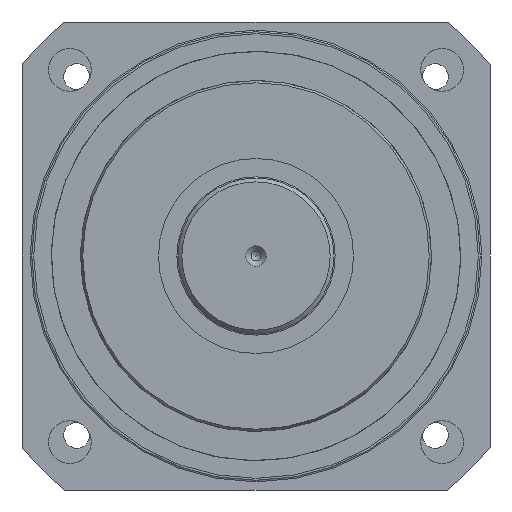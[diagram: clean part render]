
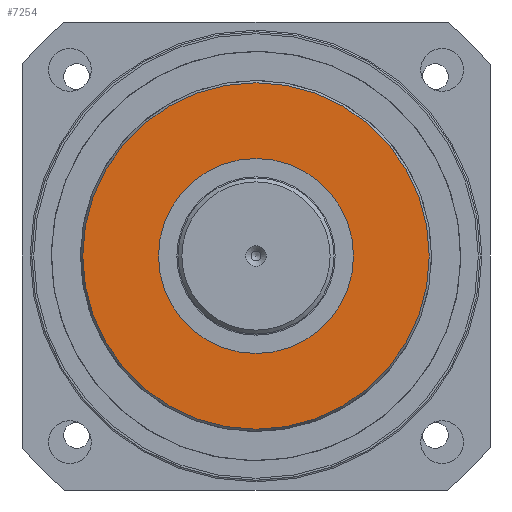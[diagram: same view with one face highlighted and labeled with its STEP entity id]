
A CAD part, left-side view. The second image highlights one B-rep face of the part: STEP entity #7254.
In plain terms, the highlighted planar face has unit normal (-1, 0, 0).
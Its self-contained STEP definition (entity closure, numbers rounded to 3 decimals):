
#669=FACE_BOUND('',#1979,.T.);
#1379=PLANE('',#8186);
#1544=FACE_OUTER_BOUND('',#1978,.T.);
#1978=EDGE_LOOP('',(#5399));
#1979=EDGE_LOOP('',(#5400,#5401));
#2582=CIRCLE('',#8182,44.423);
#2585=CIRCLE('',#8187,25.);
#2586=CIRCLE('',#8188,25.);
#3323=VERTEX_POINT('',#12167);
#3326=VERTEX_POINT('',#12177);
#3327=VERTEX_POINT('',#12178);
#4208=EDGE_CURVE('',#3323,#3323,#2582,.T.);
#4212=EDGE_CURVE('',#3326,#3327,#2585,.T.);
#4213=EDGE_CURVE('',#3327,#3326,#2586,.T.);
#5399=ORIENTED_EDGE('',*,*,#4208,.F.);
#5400=ORIENTED_EDGE('',*,*,#4212,.T.);
#5401=ORIENTED_EDGE('',*,*,#4213,.T.);
#7254=ADVANCED_FACE('',(#1544,#669),#1379,.T.);
#8182=AXIS2_PLACEMENT_3D('',#12169,#9570,#9571);
#8186=AXIS2_PLACEMENT_3D('',#12176,#9579,#9580);
#8187=AXIS2_PLACEMENT_3D('',#12179,#9581,#9582);
#8188=AXIS2_PLACEMENT_3D('',#12180,#9583,#9584);
#9570=DIRECTION('center_axis',(1.,0.,0.));
#9571=DIRECTION('ref_axis',(0.,-1.,0.));
#9579=DIRECTION('center_axis',(-1.,0.,0.));
#9580=DIRECTION('ref_axis',(0.,0.,1.));
#9581=DIRECTION('center_axis',(1.,0.,0.));
#9582=DIRECTION('ref_axis',(0.,0.,-1.));
#9583=DIRECTION('center_axis',(1.,0.,0.));
#9584=DIRECTION('ref_axis',(0.,0.,-1.));
#12167=CARTESIAN_POINT('',(0.,44.423,0.));
#12169=CARTESIAN_POINT('Origin',(0.,0.,0.));
#12176=CARTESIAN_POINT('Origin',(0.,45.,0.));
#12177=CARTESIAN_POINT('',(0.,25.,0.));
#12178=CARTESIAN_POINT('',(0.,-25.,0.));
#12179=CARTESIAN_POINT('Origin',(0.,0.,0.));
#12180=CARTESIAN_POINT('Origin',(0.,0.,0.));
